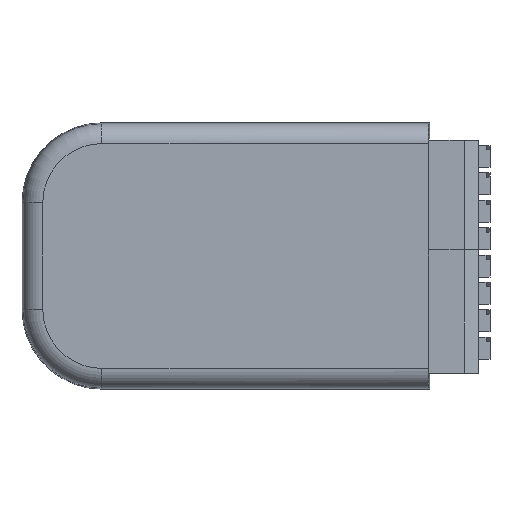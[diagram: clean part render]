
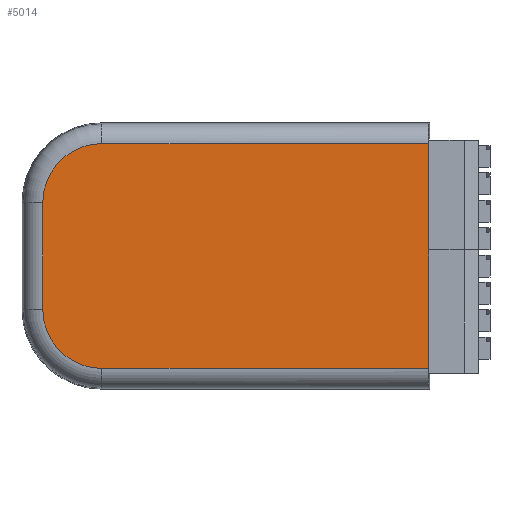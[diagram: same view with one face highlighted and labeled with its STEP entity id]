
A CAD part, front view. The second image highlights one B-rep face of the part: STEP entity #5014.
In plain terms, the highlighted planar face has unit normal (0, -1, 0).
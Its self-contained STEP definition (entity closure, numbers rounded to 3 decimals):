
#129 = VECTOR ( 'NONE', #278, 1000. ) ;
#278 = DIRECTION ( 'NONE',  ( -1., 0., 0. ) ) ;
#542 = CARTESIAN_POINT ( 'NONE',  ( -15.85, 0., 14.365 ) ) ;
#547 = EDGE_CURVE ( 'NONE', #6667, #9486, #1889, .T. ) ;
#1058 = CARTESIAN_POINT ( 'NONE',  ( -23.415, 0., 6.8 ) ) ;
#1110 = CARTESIAN_POINT ( 'NONE',  ( 25.85, 0., 16.8 ) ) ;
#1152 = ORIENTED_EDGE ( 'NONE', *, *, #15627, .T. ) ;
#1676 = CARTESIAN_POINT ( 'NONE',  ( 25.85, 0., -14.365 ) ) ;
#1889 = LINE ( 'NONE', #5475, #14355 ) ;
#2650 = CARTESIAN_POINT ( 'NONE',  ( -15.85, 0., -14.365 ) ) ;
#2839 = LINE ( 'NONE', #14988, #10243 ) ;
#3420 = AXIS2_PLACEMENT_3D ( 'NONE', #11821, #15993, #10393 ) ;
#4354 = EDGE_CURVE ( 'NONE', #7888, #4388, #4939, .T. ) ;
#4388 = VERTEX_POINT ( 'NONE', #11463 ) ;
#4619 = PLANE ( 'NONE',  #6581 ) ;
#4674 = CARTESIAN_POINT ( 'NONE',  ( -15.85, 0., -6.8 ) ) ;
#4939 = LINE ( 'NONE', #542, #129 ) ;
#5014 = ADVANCED_FACE ( 'NONE', ( #13221 ), #4619, .T. ) ;
#5303 = ORIENTED_EDGE ( 'NONE', *, *, #4354, .T. ) ;
#5475 = CARTESIAN_POINT ( 'NONE',  ( 25.85, 0., -14.365 ) ) ;
#5595 = CARTESIAN_POINT ( 'NONE',  ( -15.85, 0., -6.8 ) ) ;
#6506 = VERTEX_POINT ( 'NONE', #9468 ) ;
#6581 = AXIS2_PLACEMENT_3D ( 'NONE', #4674, #14391, #14448 ) ;
#6659 = DIRECTION ( 'NONE',  ( 0., 0., -1. ) ) ;
#6667 = VERTEX_POINT ( 'NONE', #2650 ) ;
#6713 = DIRECTION ( 'NONE',  ( 0., 0., -1. ) ) ;
#6763 = DIRECTION ( 'NONE',  ( 0., -1., 0. ) ) ;
#7888 = VERTEX_POINT ( 'NONE', #8757 ) ;
#8757 = CARTESIAN_POINT ( 'NONE',  ( 25.85, 0., 14.365 ) ) ;
#9114 = AXIS2_PLACEMENT_3D ( 'NONE', #5595, #6763, #18085 ) ;
#9386 = ORIENTED_EDGE ( 'NONE', *, *, #13405, .T. ) ;
#9468 = CARTESIAN_POINT ( 'NONE',  ( -23.415, 0., -6.8 ) ) ;
#9486 = VERTEX_POINT ( 'NONE', #1676 ) ;
#10243 = VECTOR ( 'NONE', #6659, 1000. ) ;
#10393 = DIRECTION ( 'NONE',  ( 0., 0., -1. ) ) ;
#11178 = VECTOR ( 'NONE', #6713, 1000. ) ;
#11289 = EDGE_CURVE ( 'NONE', #7888, #9486, #11639, .T. ) ;
#11463 = CARTESIAN_POINT ( 'NONE',  ( -15.85, 0., 14.365 ) ) ;
#11639 = LINE ( 'NONE', #1110, #11178 ) ;
#11821 = CARTESIAN_POINT ( 'NONE',  ( -15.85, 0., 6.8 ) ) ;
#12272 = ORIENTED_EDGE ( 'NONE', *, *, #547, .T. ) ;
#13221 = FACE_OUTER_BOUND ( 'NONE', #14047, .T. ) ;
#13405 = EDGE_CURVE ( 'NONE', #6506, #6667, #16667, .T. ) ;
#14047 = EDGE_LOOP ( 'NONE', ( #9386, #12272, #14602, #5303, #1152, #14760 ) ) ;
#14355 = VECTOR ( 'NONE', #15263, 1000. ) ;
#14391 = DIRECTION ( 'NONE',  ( 0., -1., 0. ) ) ;
#14448 = DIRECTION ( 'NONE',  ( 0., 0., -1. ) ) ;
#14591 = VERTEX_POINT ( 'NONE', #1058 ) ;
#14602 = ORIENTED_EDGE ( 'NONE', *, *, #11289, .F. ) ;
#14645 = EDGE_CURVE ( 'NONE', #14591, #6506, #2839, .T. ) ;
#14760 = ORIENTED_EDGE ( 'NONE', *, *, #14645, .T. ) ;
#14988 = CARTESIAN_POINT ( 'NONE',  ( -23.415, 0., -6.8 ) ) ;
#15263 = DIRECTION ( 'NONE',  ( 1., 0., 0. ) ) ;
#15627 = EDGE_CURVE ( 'NONE', #4388, #14591, #17652, .T. ) ;
#15993 = DIRECTION ( 'NONE',  ( 0., -1., 0. ) ) ;
#16667 = CIRCLE ( 'NONE', #9114, 7.565 ) ;
#17652 = CIRCLE ( 'NONE', #3420, 7.565 ) ;
#18085 = DIRECTION ( 'NONE',  ( 0., 0., -1. ) ) ;
